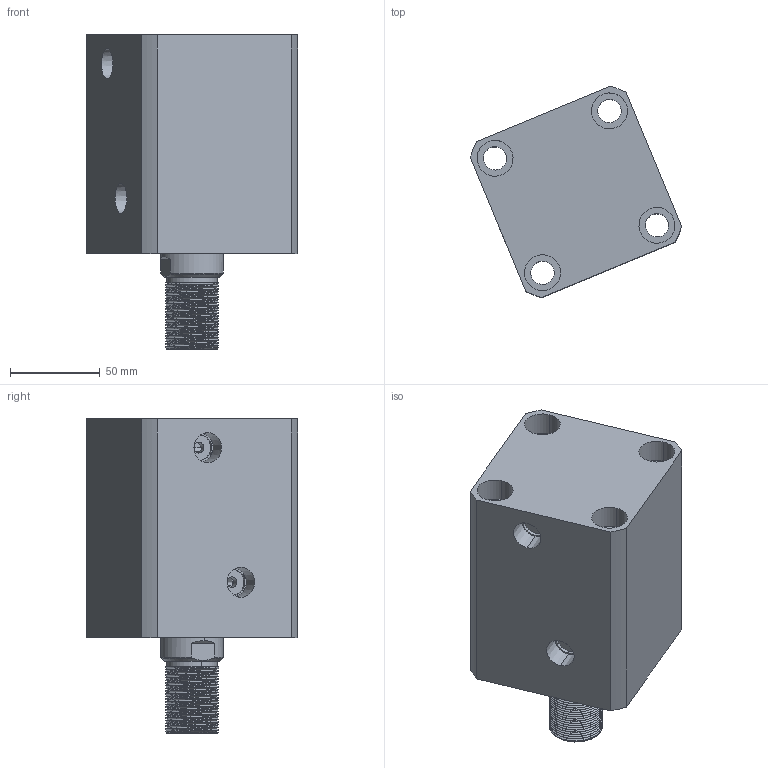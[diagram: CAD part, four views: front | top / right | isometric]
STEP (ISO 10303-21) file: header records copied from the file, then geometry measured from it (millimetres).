
FILE_DESCRIPTION (( 'STEP AP214' ), '1' );
FILE_NAME ('chtb-sd63x55w_asm.STEP', '2018-05-19T02:00:01', ( 'Windows' ), ( 'Microsoft' ), 'SwSTEP 2.0', 'SolidWorks 2015', '' );
FILE_SCHEMA (( 'AUTOMOTIVE_DESIGN' ));
Length unit declared in the file: millimetre
Products named in the file (4): CHTB63X55WHSG; CHTB63X55NBT; CHTB-63QG; chtb-sd63x55w_asm
Assembly tree (3 placements, depth 2):
  chtb-sd63x55w_asm
    CHTB-63QG
    CHTB63X55NBT
    CHTB63X55WHSG
Bounding box: 117.81 x 117.81 x 175 mm (x, y, z)
Volume: 900220.6 mm3; surface area: 153672.9 mm2
Topology: 3 solids, 3 shells, 219 faces, 625 edges, 427 vertices
Faces by surface type: cylinder 150, plane 36, bspline 14, cone 13, torus 6
Entity records: 22208 total; most frequent: CARTESIAN_POINT 16953, ORIENTED_EDGE 1242, DIRECTION 881, EDGE_CURVE 621, VERTEX_POINT 427, AXIS2_PLACEMENT_3D 346, EDGE_LOOP 252, ADVANCED_FACE 219
